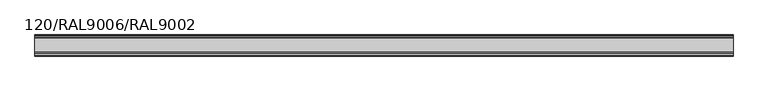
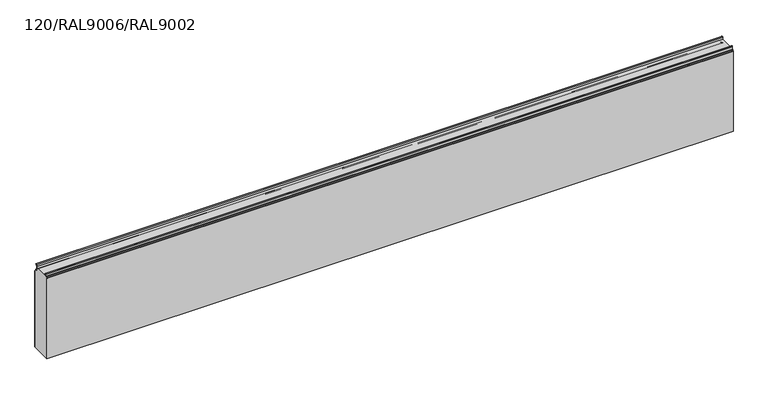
"""IFC4 building model written with IfcOpenShell, lengths in millimetres: plate geometry, TR_C_H_FHL_Panel_cut_TONGUE : 120/RAL9006/RAL9002."""

from ifc_helpers import new_model, si_unit, point, frame, frame_2d, origin, place, context, project, spatial, polyline, circle_curve, trimmed, segment, composite_curve, outline, extrude, source, transform, mapped, element, save


def plate_120_ral9006_ral9002_0ac37183(model_context):
    return source(origin(), model_context, "Body", "SweptSolid", [
        extrude(outline(composite_curve([segment(polyline([(-17.4455763, 500.0), (-17.6, 498.2349288), (-17.6, 479.1)]), True, "CONTINUOUS"), segment(trimmed(circle_curve(frame_2d((-14.8, 479.1)), 2.8), [point((-17.6, 479.1))], [point((-14.8, 476.3))], True, "CARTESIAN"), True, "CONTINUOUS"), segment(polyline([(-14.8, 476.3), (-8.9, 476.3)]), True, "CONTINUOUS"), segment(trimmed(circle_curve(frame_2d((-8.9, 474.4)), 1.9), [point((-8.9, 476.3))], [point((-7.0, 474.4))], False, "CARTESIAN"), True, "CONTINUOUS"), segment(polyline([(-7.0, 474.4), (-7.0, 471.5838835)]), True, "CONTINUOUS"), segment(trimmed(circle_curve(frame_2d((-4.2, 471.5838835)), 2.8), [point((-7.0, 471.5838835))], [point((-6.179899, 469.6039845))], True, "CARTESIAN"), True, "CONTINUOUS"), segment(polyline([(-6.179899, 469.6039845), (-1.3564971, 464.7805826)]), True, "CONTINUOUS"), segment(trimmed(circle_curve(frame_2d((-2.7, 463.4370797)), 1.9), [point((-1.3564971, 464.7805826))], [point((-0.8, 463.4370797))], False, "CARTESIAN"), True, "CONTINUOUS"), segment(polyline([(-0.8, 463.4370797), (-0.8, 0.0), (-119.2, 0.0), (-119.2, 489.8218254)]), True, "CONTINUOUS"), segment(trimmed(circle_curve(frame_2d((-117.0, 489.8218254)), 2.2), [point((-119.2, 489.8218254))], [point((-118.5556349, 491.3774603))], False, "CARTESIAN"), True, "CONTINUOUS"), segment(polyline([(-118.5556349, 491.3774603), (-114.1665476, 495.7665476)]), True, "CONTINUOUS"), segment(trimmed(circle_curve(frame_2d((-116.5, 498.1)), 3.3), [point((-114.1665476, 495.7665476))], [point((-113.2, 498.1))], True, "CARTESIAN"), True, "CONTINUOUS"), segment(polyline([(-113.2, 498.1), (-113.2, 500.0), (-17.4455763, 500.0)]), True, "CONTINUOUS")], self_intersect=False)), frame((-1980.0, 0.0, 0.0), z_axis=(1.0, 0.0, 0.0), x_axis=(0.0, 1.0, 0.0)), (0.0, 0.0, 1.0), 3960.0),
        extrude(outline(composite_curve([segment(trimmed(circle_curve(frame_2d((-2.7, 463.4370797)), 1.9), [point((-0.8, 463.4370797))], [point((-1.3564971, 464.7805826))], True, "CARTESIAN"), True, "CONTINUOUS"), segment(polyline([(-1.3564971, 464.7805826), (-6.179899, 469.6039845)]), True, "CONTINUOUS"), segment(trimmed(circle_curve(frame_2d((-4.2, 471.5838835)), 2.8), [point((-6.179899, 469.6039845))], [point((-7.0, 471.5838835))], False, "CARTESIAN"), True, "CONTINUOUS"), segment(polyline([(-7.0, 471.5838835), (-7.0, 474.4)]), True, "CONTINUOUS"), segment(trimmed(circle_curve(frame_2d((-8.9, 474.4)), 1.9), [point((-7.0, 474.4))], [point((-8.9, 476.3))], True, "CARTESIAN"), True, "CONTINUOUS"), segment(polyline([(-8.9, 476.3), (-14.8, 476.3)]), True, "CONTINUOUS"), segment(trimmed(circle_curve(frame_2d((-14.8, 479.1)), 2.8), [point((-14.8, 476.3))], [point((-17.6, 479.1))], False, "CARTESIAN"), True, "CONTINUOUS"), segment(polyline([(-17.6, 479.1), (-17.6, 498.2349288), (-16.5051936, 510.748623)]), True, "CONTINUOUS"), segment(trimmed(circle_curve(frame_2d((-12.5204148, 510.4)), 4.0), [point((-16.5051936, 510.748623))], [point((-8.7383405, 511.7022726))], False, "CARTESIAN"), True, "CONTINUOUS"), segment(polyline([(-8.7383405, 511.7022726), (-8.4287263, 510.8030877), (-9.1851412, 510.5426332), (-9.4947554, 511.4418181)]), True, "CONTINUOUS"), segment(trimmed(circle_curve(frame_2d((-12.5204148, 510.4)), 3.2), [point((-9.4947554, 511.4418181))], [point((-15.7082379, 510.6788984))], True, "CARTESIAN"), True, "CONTINUOUS"), segment(polyline([(-15.7082379, 510.6788984), (-16.8, 498.2), (-16.8, 479.1)]), True, "CONTINUOUS"), segment(trimmed(circle_curve(frame_2d((-14.8, 479.1)), 2.0), [point((-16.8, 479.1))], [point((-14.8, 477.1))], True, "CARTESIAN"), True, "CONTINUOUS"), segment(polyline([(-14.8, 477.1), (-8.9, 477.1)]), True, "CONTINUOUS"), segment(trimmed(circle_curve(frame_2d((-8.9, 474.4)), 2.7), [point((-8.9, 477.1))], [point((-6.2, 474.4))], False, "CARTESIAN"), True, "CONTINUOUS"), segment(polyline([(-6.2, 474.4), (-6.2, 471.5838835)]), True, "CONTINUOUS"), segment(trimmed(circle_curve(frame_2d((-4.2, 471.5838835)), 2.0), [point((-6.2, 471.5838835))], [point((-5.6142136, 470.1696699))], True, "CARTESIAN"), True, "CONTINUOUS"), segment(polyline([(-5.6142136, 470.1696699), (-0.7908117, 465.346268)]), True, "CONTINUOUS"), segment(trimmed(circle_curve(frame_2d((-2.7, 463.4370797)), 2.7), [point((-0.7908117, 465.346268))], [point((0.0, 463.4370797))], False, "CARTESIAN"), True, "CONTINUOUS"), segment(polyline([(0.0, 463.4370797), (0.0, 0.0), (-0.8, 0.0), (-0.8, 463.4370797)]), True, "CONTINUOUS")], self_intersect=False)), frame((-1980.0, 0.0, 0.0), z_axis=(1.0, 0.0, 0.0), x_axis=(0.0, 1.0, 0.0)), (0.0, 0.0, 1.0), 3960.0),
        extrude(outline(composite_curve([segment(polyline([(-119.1213203, 491.9431458), (-114.732233, 496.332233)]), True, "CONTINUOUS"), segment(trimmed(circle_curve(frame_2d((-116.5, 498.1)), 2.5), [point((-114.732233, 496.332233))], [point((-114.0, 498.1))], True, "CARTESIAN"), True, "CONTINUOUS"), segment(polyline([(-114.0, 498.1), (-114.0, 512.85)]), True, "CONTINUOUS"), segment(trimmed(circle_curve(frame_2d((-110.75, 512.85)), 3.25), [point((-114.0, 512.85))], [point((-107.5493748, 513.4143566))], False, "CARTESIAN"), True, "CONTINUOUS"), segment(polyline([(-107.5493748, 513.4143566), (-106.8060618, 509.1988193)]), True, "CONTINUOUS"), segment(trimmed(circle_curve(frame_2d((-103.1130328, 509.85)), 3.75), [point((-106.8060618, 509.1988193))], [point((-103.1130328, 506.1))], True, "CARTESIAN"), True, "CONTINUOUS"), segment(polyline([(-103.1130328, 506.1), (-99.0, 506.1), (-99.0, 505.3), (-103.1130328, 505.3)]), True, "CONTINUOUS"), segment(trimmed(circle_curve(frame_2d((-103.1130328, 509.85)), 4.55), [point((-103.1130328, 505.3))], [point((-107.5939081, 509.0599008))], False, "CARTESIAN"), True, "CONTINUOUS"), segment(polyline([(-107.5939081, 509.0599008), (-108.337221, 513.275438)]), True, "CONTINUOUS"), segment(trimmed(circle_curve(frame_2d((-110.75, 512.85)), 2.45), [point((-108.337221, 513.275438))], [point((-113.2, 512.85))], True, "CARTESIAN"), True, "CONTINUOUS"), segment(polyline([(-113.2, 512.85), (-113.2, 498.1)]), True, "CONTINUOUS"), segment(trimmed(circle_curve(frame_2d((-116.5, 498.1)), 3.3), [point((-113.2, 498.1))], [point((-114.1665476, 495.7665476))], False, "CARTESIAN"), True, "CONTINUOUS"), segment(polyline([(-114.1665476, 495.7665476), (-118.5556349, 491.3774603)]), True, "CONTINUOUS"), segment(trimmed(circle_curve(frame_2d((-117.0, 489.8218254)), 2.2), [point((-118.5556349, 491.3774603))], [point((-119.2, 489.8218254))], True, "CARTESIAN"), True, "CONTINUOUS"), segment(polyline([(-119.2, 489.8218254), (-119.2, 0.0), (-120.0, 0.0), (-120.0, 489.8218254)]), True, "CONTINUOUS"), segment(trimmed(circle_curve(frame_2d((-117.0, 489.8218254)), 3.0), [point((-120.0, 489.8218254))], [point((-119.1213203, 491.9431458))], False, "CARTESIAN"), True, "CONTINUOUS")], self_intersect=False)), frame((-1980.0, 0.0, 0.0), z_axis=(1.0, 0.0, 0.0), x_axis=(0.0, 1.0, 0.0)), (0.0, 0.0, 1.0), 3960.0),
    ])


if __name__ == "__main__":
    model = new_model("IFC4")
    model_context = context("Model", 3, world=origin())
    ifc_project = project(units=[si_unit("LENGTHUNIT", "METRE", prefix="MILLI")], contexts=[model_context])
    site = spatial("IfcSite", under=ifc_project)
    building = spatial("IfcBuilding", under=site)
    placement = place(None, origin())
    plate_120_ral9006_ral9002_shape = plate_120_ral9006_ral9002_0ac37183(model_context)
    element("IfcPlate", 1, ObjectType="TR_C_H_FHL_Panel_cut_TONGUE : 120/RAL9006/RAL9002", at=placement, inside=building, context=model_context, shape_type="MappedRepresentation", body=[
        mapped(plate_120_ral9006_ral9002_shape, transform((0.0, 0.0, 0.0), x_axis=(1.0, 0.0, 0.0), y_axis=(0.0, 1.0, 0.0), z_axis=(0.0, 0.0, 1.0))),
    ])
    save(model, "model.ifc")
